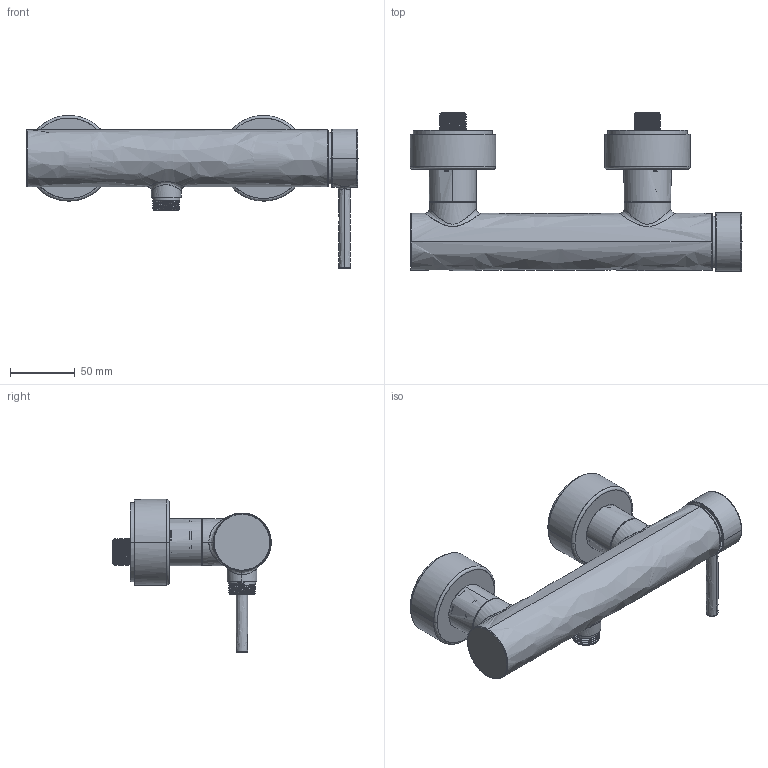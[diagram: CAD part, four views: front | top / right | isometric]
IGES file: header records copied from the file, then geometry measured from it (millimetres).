
Global section: file name: d:\users\matthias.isele\Desktop\Planungsdaten_erstellen\Armaturen\Circle\CE4230000010\3D\CE4230000010.igs; native system: Rhinoceros ( Sep 13 2016 ); preprocessor: Trout Lake IGES 012 Sep 13 2016; date: 230111.073554; units: millimetre
Bounding box: 255.8 x 122 x 118 mm (x, y, z)
Surface area: 112681.4 mm2 (no closed solid volume)
Topology: 0 solids, 0 shells, 4441 faces, 33314 edges, 33310 vertices
Faces by surface type: bspline 4441
